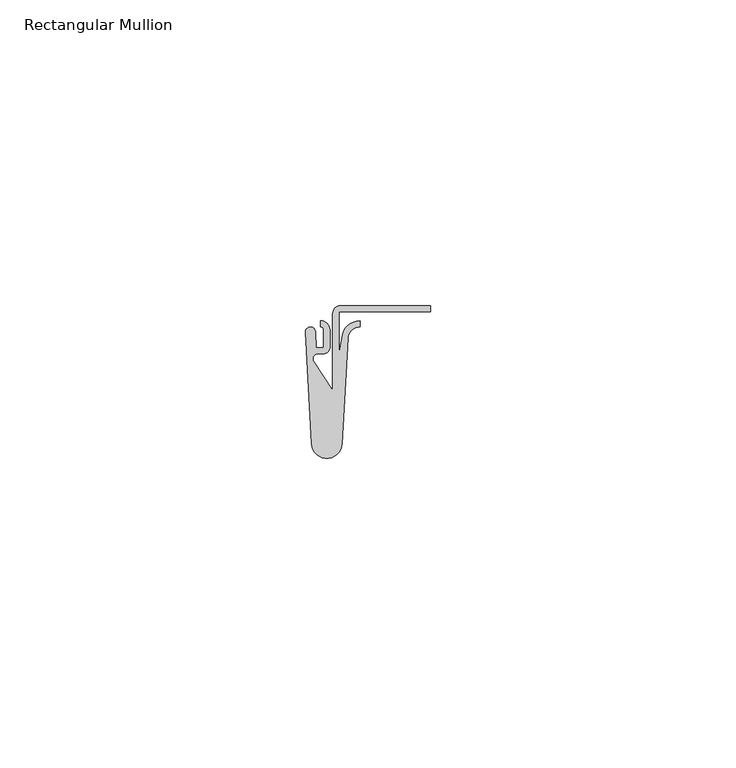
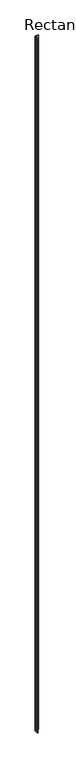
"""IFC4 building model written with IfcOpenShell, lengths in millimetres: member geometry, Rectangular Mullion : Stratco_Hiland_Tray Snaplock_25mm Rib_Intermediate."""

import ifcopenshell
import ifcopenshell.guid

model = None  # the IFC model being written
_history = None  # IfcOwnerHistory: only IFC2X3 demands one
_inside = {}  # id of a spatial element -> (the spatial element, [elements in it])
_under = {}  # id of a project, library or spatial element -> (it, [spatial elements below it])
_declared = {}  # id of a project -> (the project, [libraries it declares])
_typed = {}  # id of a type object -> (the type object, [elements of that type])
_made_of = {}  # id of a material, layer set ... -> (it, [elements and type objects made of it])


def new_model(schema):
    """Start an empty IFC model of exactly this schema.

    Asked for "IFC4X3", IfcOpenShell would pick the latest addendum, in which some entities
    have other attributes; the version numbers below select the first issue.
    IFC2X3 requires an IfcOwnerHistory on every rooted entity: one is made here for all.
    """
    global model, _history
    if schema == "IFC4X3":
        model = ifcopenshell.file(schema_version=(4, 3, 0, 0))
    else:
        model = ifcopenshell.file(schema=schema)
    _inside.clear()
    _under.clear()
    _declared.clear()
    _typed.clear()
    _made_of.clear()
    _history = None
    if model.schema == "IFC2X3":
        org = make("IfcOrganization", Name="unknown")
        user = make(
            "IfcPersonAndOrganization",
            ThePerson=make("IfcPerson", FamilyName="unknown"),
            TheOrganization=org,
        )
        app = make(
            "IfcApplication",
            ApplicationDeveloper=org,
            Version="unknown",
            ApplicationFullName="unknown",
            ApplicationIdentifier="unknown",
        )
        _history = make(
            "IfcOwnerHistory",
            OwningUser=user,
            OwningApplication=app,
            ChangeAction="ADDED",
            CreationDate=0,
        )
    return model


def make(cls, **values):
    """One entity of the class cls with the attributes given. An attribute that is None is left unset."""
    return model.create_entity(
        cls, **{name: value for name, value in values.items() if value is not None}
    )


def rooted(cls, **values):
    """An entity with a GlobalId (a new one), such as an element, a storey or a relation."""
    return make(cls, GlobalId=ifcopenshell.guid.new(), OwnerHistory=_history, **values)


def si_unit(unit_type, name, prefix=None):
    """IfcSIUnit, for example si_unit("LENGTHUNIT", "METRE", prefix="MILLI")."""
    return make("IfcSIUnit", UnitType=unit_type, Prefix=prefix, Name=name)


def assignment(units):
    """IfcUnitAssignment: the units of a project."""
    return None if units is None else make("IfcUnitAssignment", Units=units)


def point(xyz):
    """IfcCartesianPoint."""
    return None if xyz is None else make("IfcCartesianPoint", Coordinates=xyz)


def direction(xyz):
    """IfcDirection."""
    return None if xyz is None else make("IfcDirection", DirectionRatios=xyz)


def frame(location, z_axis=None, x_axis=None):
    """IfcAxis2Placement3D, a coordinate frame: its origin and axes. An axis left out is left unset."""
    return make(
        "IfcAxis2Placement3D",
        Location=point(location),
        Axis=direction(z_axis),
        RefDirection=direction(x_axis),
    )


def frame_2d(location, x_axis=None):
    """IfcAxis2Placement2D, a coordinate frame in the plane: its origin and x axis."""
    return make(
        "IfcAxis2Placement2D", Location=point(location), RefDirection=direction(x_axis)
    )


def origin():
    """The frame at (0, 0, 0) with its axes left unset."""
    return frame((0.0, 0.0, 0.0))


def place(relative_to, where):
    """IfcLocalPlacement: puts the frame where relative to a parent placement (None: the world)."""
    return make(
        "IfcLocalPlacement", PlacementRelTo=relative_to, RelativePlacement=where
    )


def context(
    kind, dimensions, precision=None, world=None, true_north=None, identifier=None
):
    """IfcGeometricRepresentationContext, for example the 3D "Model" context."""
    return make(
        "IfcGeometricRepresentationContext",
        ContextIdentifier=identifier,
        ContextType=kind,
        CoordinateSpaceDimension=dimensions,
        Precision=precision,
        WorldCoordinateSystem=world,
        TrueNorth=true_north,
    )


def project(units=None, contexts=None):
    """IfcProject with its units and contexts."""
    return rooted(
        "IfcProject",
        Name="project",
        RepresentationContexts=contexts,
        UnitsInContext=assignment(units),
    )


def spatial(cls, under=None, at=None, **own):
    """A site, building, storey or space (cls), placed at a placement, below another one or the project."""
    s = rooted(cls, ObjectPlacement=at, **own)
    if under is not None:
        _under.setdefault(under.id(), (under, []))[1].append(s)
    return s


def polyline(points):
    """IfcPolyline through the points."""
    return make("IfcPolyline", Points=[point(p) for p in points])


def circle_curve(where, radius):
    """IfcCircle in the frame where."""
    return make("IfcCircle", Position=where, Radius=radius)


def trimmed(basis, trim1, trim2, sense, master):
    """IfcTrimmedCurve: the piece of a basis curve between two trims."""
    return make(
        "IfcTrimmedCurve",
        BasisCurve=basis,
        Trim1=trim1,
        Trim2=trim2,
        SenseAgreement=sense,
        MasterRepresentation=master,
    )


def segment(curve, same_sense, transition):
    """IfcCompositeCurveSegment."""
    return make(
        "IfcCompositeCurveSegment",
        Transition=transition,
        SameSense=same_sense,
        ParentCurve=curve,
    )


def composite_curve(segments, self_intersect=None):
    """IfcCompositeCurve: segments joined end to end."""
    return make("IfcCompositeCurve", Segments=segments, SelfIntersect=self_intersect)


def outline(outer, holes=None, kind="AREA"):
    """IfcArbitraryClosedProfileDef: a profile drawn as a closed curve; with holes, ...WithVoids."""
    if holes is None:
        return make("IfcArbitraryClosedProfileDef", ProfileType=kind, OuterCurve=outer)
    return make(
        "IfcArbitraryProfileDefWithVoids",
        ProfileType=kind,
        OuterCurve=outer,
        InnerCurves=holes,
    )


def extrude(swept, where, along, depth):
    """IfcExtrudedAreaSolid: the profile swept, set in the frame where, extruded along a direction by depth."""
    return make(
        "IfcExtrudedAreaSolid",
        SweptArea=swept,
        Position=where,
        ExtrudedDirection=direction(along),
        Depth=depth,
    )


def shape(context_of_items, identifier, shape_type, items):
    """IfcShapeRepresentation: the items that make up one representation, for example the "Body"."""
    return make(
        "IfcShapeRepresentation",
        ContextOfItems=context_of_items,
        RepresentationIdentifier=identifier,
        RepresentationType=shape_type,
        Items=items,
    )


def source(mapping_origin, context_of_items, identifier, shape_type, items):
    """IfcRepresentationMap: a shape defined once, which mapped items show again and again."""
    return make(
        "IfcRepresentationMap",
        MappingOrigin=mapping_origin,
        MappedRepresentation=shape(context_of_items, identifier, shape_type, items),
    )


def transform(
    local_origin,
    x_axis=None,
    y_axis=None,
    z_axis=None,
    scale=None,
    scale2=None,
    scale3=None,
    uniform=True,
):
    """IfcCartesianTransformationOperator3D, or its non-uniform kind. x_axis, y_axis, z_axis: its Axis1, 2, 3."""
    if uniform:
        return make(
            "IfcCartesianTransformationOperator3D",
            Axis1=direction(x_axis),
            Axis2=direction(y_axis),
            LocalOrigin=point(local_origin),
            Scale=scale,
            Axis3=direction(z_axis),
        )
    return make(
        "IfcCartesianTransformationOperator3DnonUniform",
        Axis1=direction(x_axis),
        Axis2=direction(y_axis),
        LocalOrigin=point(local_origin),
        Scale=scale,
        Axis3=direction(z_axis),
        Scale2=scale2,
        Scale3=scale3,
    )


def mapped(mapping_source, mapping_target):
    """IfcMappedItem: shows the shape of a source again, moved by a transform."""
    return make(
        "IfcMappedItem", MappingSource=mapping_source, MappingTarget=mapping_target
    )


def made_of(thing, what):
    """Note that an element or type object is made of a material, layer set ...; save() writes the relation."""
    if what is not None:
        _made_of.setdefault(what.id(), (what, []))[1].append(thing)
    return thing


def element(
    cls,
    number,
    at=None,
    inside=None,
    cuts=None,
    type_object=None,
    material=None,
    context=None,
    identifier="Body",
    shape_type=None,
    held_by="IfcProductDefinitionShape",
    body=None,
    shapes=None,
    **own,
):
    """One element of the class cls, such as IfcWall. Its Tag is "e" and its number.

    at: its placement. inside: the storey or other place that contains it. cuts: it is an
    opening in that element (IfcRelVoidsElement). A single representation is given by context,
    identifier, shape_type and body (its items); several are given by shapes. held_by: the class
    of the entity that holds the representations. save() writes the other relations.
    """
    e = rooted(cls, Tag="e%d" % number, ObjectPlacement=at, **own)
    if body is not None:
        shapes = [shape(context, identifier, shape_type, body)]
    if shapes is not None:
        e.Representation = make(held_by, Representations=shapes)
    if inside is not None:
        _inside.setdefault(inside.id(), (inside, []))[1].append(e)
    if cuts is not None:
        rooted(
            "IfcRelVoidsElement", RelatingBuildingElement=cuts, RelatedOpeningElement=e
        )
    if type_object is not None:
        _typed.setdefault(type_object.id(), (type_object, []))[1].append(e)
    return made_of(e, material)


def aggregate(whole, parts):
    """IfcRelAggregates: a whole, such as a stair, and the parts it consists of."""
    return rooted("IfcRelAggregates", RelatingObject=whole, RelatedObjects=parts)


def save(model, path):
    """Write the relations noted so far, then the file.

    IfcRelAggregates (storeys below a building ...), IfcRelContainedInSpatialStructure (elements
    in a storey), IfcRelDefinesByType, IfcRelAssociatesMaterial and IfcRelDeclares: one each for
    every whole, place, type object, material and project.
    """
    for whole, parts in _under.values():
        aggregate(whole, parts)
    for where, things in _inside.values():
        rooted(
            "IfcRelContainedInSpatialStructure",
            RelatedElements=things,
            RelatingStructure=where,
        )
    for kind, things in _typed.values():
        rooted("IfcRelDefinesByType", RelatedObjects=things, RelatingType=kind)
    for what, things in _made_of.values():
        rooted("IfcRelAssociatesMaterial", RelatedObjects=things, RelatingMaterial=what)
    for by, libraries in _declared.values():
        rooted("IfcRelDeclares", RelatingContext=by, RelatedDefinitions=libraries)
    model.write(path)


def rectangular_mullion_f18a19a7(model_context):
    return source(origin(), model_context, "Body", "SweptSolid", [
        extrude(outline(composite_curve([segment(polyline([(-0.5028833, -6.8829629), (-0.5028833, -3.9971167)]), True, "CONTINUOUS"), segment(trimmed(circle_curve(frame_2d((-1.0, -3.9971167)), 0.4971167), [point((-0.5028833, -3.9971167))], [point((-1.0, -3.5))], True, "CARTESIAN"), True, "CONTINUOUS"), segment(polyline([(-1.0, -3.5), (-1.0, -2.5000001)]), True, "CONTINUOUS"), segment(trimmed(circle_curve(frame_2d((-1.0, -3.9973007)), 1.4973006), [point((-1.0, -2.5000001))], [point((0.4973006, -3.9973007))], False, "CARTESIAN"), True, "CONTINUOUS"), segment(polyline([(0.4973006, -3.9973007), (0.4973006, -6.9288725)]), True, "CONTINUOUS"), segment(trimmed(circle_curve(frame_2d((-0.5580688, -6.8533411)), 1.0580688), [point((0.4973006, -6.9288725))], [point((-0.5580688, -7.9114098))], False, "CARTESIAN"), True, "CONTINUOUS"), segment(polyline([(-0.5580688, -7.9114098), (-1.4747805, -7.9114098)]), True, "CONTINUOUS"), segment(trimmed(circle_curve(frame_2d((-1.4747805, -8.705404)), 0.7939942), [point((-1.4747805, -7.9114098))], [point((-2.1379942, -9.1419522))], True, "CARTESIAN"), True, "CONTINUOUS"), segment(polyline([(-2.1379942, -9.1419522), (0.9747471, -13.8708983), (0.9745768, -1.3275288)]), True, "CONTINUOUS"), segment(trimmed(circle_curve(frame_2d((2.3021365, -1.3275108)), 1.3275596), [point((0.9745768, -1.3275288))], [point((2.3021365, 4.88e-05))], False, "CARTESIAN"), True, "CONTINUOUS"), segment(polyline([(2.3021365, 4.88e-05), (17.0, 4.88e-05), (17.0, -0.9999512), (1.9745724, -0.9999512), (1.9745724, -7.8734664), (2.4651763, -5.3543763)]), True, "CONTINUOUS"), segment(trimmed(circle_curve(frame_2d((5.4616398, -5.5)), 3.0), [point((2.4651763, -5.3543763))], [point((5.4616398, -2.5))], False, "CARTESIAN"), True, "CONTINUOUS"), segment(polyline([(5.4616398, -2.5), (5.4616398, -3.5)]), True, "CONTINUOUS"), segment(trimmed(circle_curve(frame_2d((5.4616398, -5.5)), 2.0), [point((5.4616398, -3.5))], [point((3.464382, -5.3953045))], True, "CARTESIAN"), True, "CONTINUOUS"), segment(polyline([(3.464382, -5.3953045), (2.5086806, -22.626652)]), True, "CONTINUOUS"), segment(trimmed(circle_curve(frame_2d((0.0, -22.4875132)), 2.5125361), [point((2.5086806, -22.626652))], [point((-2.5086806, -22.626652))], False, "CARTESIAN"), True, "CONTINUOUS"), segment(polyline([(-2.5086806, -22.626652), (-3.5117987, -4.3994153)]), True, "CONTINUOUS"), segment(trimmed(circle_curve(frame_2d((-2.6603037, -4.3720626)), 0.8519342), [point((-3.5117987, -4.3994153))], [point((-1.8087597, -4.3462781))], False, "CARTESIAN"), True, "CONTINUOUS"), segment(polyline([(-1.8087597, -4.3462781), (-1.7319496, -6.8829629), (-0.5028833, -6.8829629)]), True, "CONTINUOUS")], self_intersect=False)), frame((0.0, 0.0, -4000.0), z_axis=(0.0, 0.0, 1.0), x_axis=(1.0, 0.0, 0.0)), (0.0, 0.0, 1.0), 4000.0),
    ])


if __name__ == "__main__":
    model = new_model("IFC4")
    model_context = context("Model", 3, world=origin())
    ifc_project = project(units=[si_unit("LENGTHUNIT", "METRE", prefix="MILLI")], contexts=[model_context])
    site = spatial("IfcSite", under=ifc_project)
    building = spatial("IfcBuilding", under=site)
    placement = place(None, origin())
    rectangular_mullion_shape = rectangular_mullion_f18a19a7(model_context)
    element("IfcMember", 1, ObjectType="Rectangular Mullion : Stratco_Hiland_Tray Snaplock_25mm Rib_Intermediate", at=placement, inside=building, context=model_context, shape_type="MappedRepresentation", body=[
        mapped(rectangular_mullion_shape, transform((0.0, 0.0, 0.0), x_axis=(1.0, 0.0, 0.0), y_axis=(0.0, 1.0, 0.0), z_axis=(0.0, 0.0, 1.0))),
    ])
    save(model, "model.ifc")
